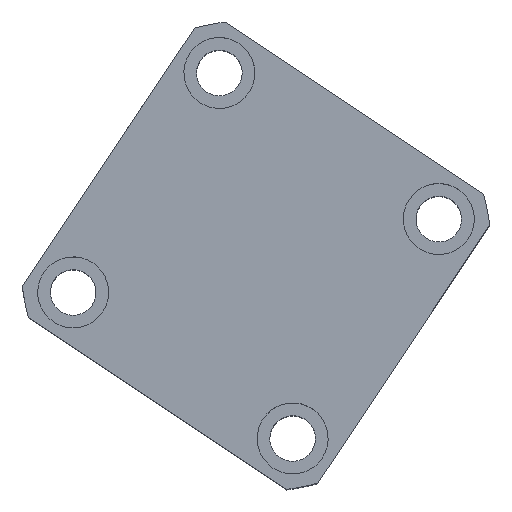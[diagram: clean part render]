
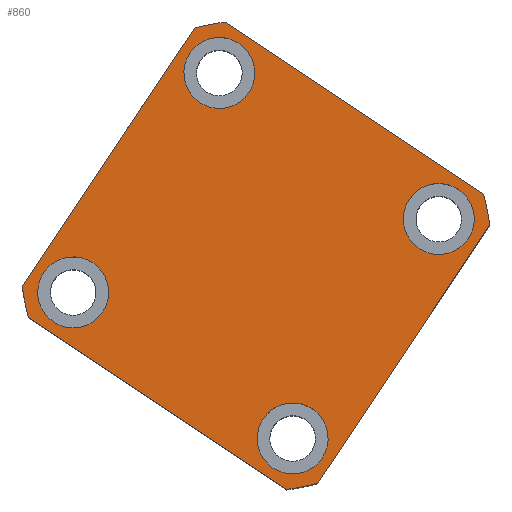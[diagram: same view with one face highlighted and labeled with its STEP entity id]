
A CAD part, top view. The second image highlights one B-rep face of the part: STEP entity #860.
In plain terms, the highlighted planar face has unit normal (0, 0, 1).
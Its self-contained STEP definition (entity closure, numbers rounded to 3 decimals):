
#104 = ORIENTED_EDGE ( 'NONE', *, *, #474, .T. ) ;
#189 = CIRCLE ( 'NONE', #4285, 7. ) ;
#366 = CARTESIAN_POINT ( 'NONE',  ( -35., 35., 65. ) ) ;
#392 = DIRECTION ( 'NONE',  ( 1., 0., 0. ) ) ;
#401 = EDGE_CURVE ( 'NONE', #8736, #599, #5447, .T. ) ;
#467 = DIRECTION ( 'NONE',  ( 1., 0., 0. ) ) ;
#474 = EDGE_CURVE ( 'NONE', #7464, #6386, #9310, .T. ) ;
#476 = DIRECTION ( 'NONE',  ( 1., 0., 0. ) ) ;
#495 = EDGE_CURVE ( 'NONE', #2965, #9809, #7234, .T. ) ;
#503 = DIRECTION ( 'NONE',  ( 0., 0., 1. ) ) ;
#570 = CARTESIAN_POINT ( 'NONE',  ( 0., 0., 65. ) ) ;
#599 = VERTEX_POINT ( 'NONE', #2149 ) ;
#791 = CIRCLE ( 'NONE', #7916, 7. ) ;
#796 = EDGE_CURVE ( 'NONE', #1993, #1742, #3973, .T. ) ;
#860 = ADVANCED_FACE ( 'NONE', ( #3713, #5793, #9901, #5562, #3451 ), #1157, .T. ) ;
#994 = EDGE_CURVE ( 'NONE', #2390, #7613, #1392, .T. ) ;
#995 = EDGE_CURVE ( 'NONE', #8487, #8311, #5061, .T. ) ;
#1053 = AXIS2_PLACEMENT_3D ( 'NONE', #9088, #3977, #5175 ) ;
#1065 = DIRECTION ( 'NONE',  ( 1., 0., 0. ) ) ;
#1119 = DIRECTION ( 'NONE',  ( 0., 0., 1. ) ) ;
#1157 = PLANE ( 'NONE',  #3457 ) ;
#1231 = EDGE_CURVE ( 'NONE', #9809, #2965, #2476, .T. ) ;
#1297 = CARTESIAN_POINT ( 'NONE',  ( -26., -26., 65. ) ) ;
#1367 = DIRECTION ( 'NONE',  ( 0., 0., 1. ) ) ;
#1392 = CIRCLE ( 'NONE', #5007, 7. ) ;
#1407 = CARTESIAN_POINT ( 'NONE',  ( -19., -26., 65. ) ) ;
#1442 = EDGE_CURVE ( 'NONE', #6386, #8487, #7101, .T. ) ;
#1634 = EDGE_CURVE ( 'NONE', #1742, #1993, #189, .T. ) ;
#1738 = DIRECTION ( 'NONE',  ( 1., 0., 0. ) ) ;
#1742 = VERTEX_POINT ( 'NONE', #3527 ) ;
#1779 = DIRECTION ( 'NONE',  ( 0., 0., 1. ) ) ;
#1903 = ORIENTED_EDGE ( 'NONE', *, *, #994, .F. ) ;
#1978 = VECTOR ( 'NONE', #4088, 1000. ) ;
#1993 = VERTEX_POINT ( 'NONE', #4639 ) ;
#2081 = AXIS2_PLACEMENT_3D ( 'NONE', #6053, #1367, #6814 ) ;
#2139 = ORIENTED_EDGE ( 'NONE', *, *, #5898, .F. ) ;
#2149 = CARTESIAN_POINT ( 'NONE',  ( -35., 30.615, 65. ) ) ;
#2352 = VECTOR ( 'NONE', #7617, 1000. ) ;
#2390 = VERTEX_POINT ( 'NONE', #8506 ) ;
#2412 = CARTESIAN_POINT ( 'NONE',  ( 19., -26., 65. ) ) ;
#2451 = EDGE_CURVE ( 'NONE', #599, #4981, #4459, .T. ) ;
#2476 = CIRCLE ( 'NONE', #8119, 7. ) ;
#2601 = AXIS2_PLACEMENT_3D ( 'NONE', #5350, #3142, #476 ) ;
#2646 = CARTESIAN_POINT ( 'NONE',  ( 30.615, -35., 65. ) ) ;
#2649 = EDGE_CURVE ( 'NONE', #4981, #9665, #9897, .T. ) ;
#2729 = CARTESIAN_POINT ( 'NONE',  ( -26., 26., 65. ) ) ;
#2766 = DIRECTION ( 'NONE',  ( 0., 0., 1. ) ) ;
#2798 = DIRECTION ( 'NONE',  ( 1., 0., 0. ) ) ;
#2965 = VERTEX_POINT ( 'NONE', #8945 ) ;
#3110 = CARTESIAN_POINT ( 'NONE',  ( 26., -26., 65. ) ) ;
#3138 = AXIS2_PLACEMENT_3D ( 'NONE', #3110, #6193, #6084 ) ;
#3142 = DIRECTION ( 'NONE',  ( 0., 0., 1. ) ) ;
#3252 = CARTESIAN_POINT ( 'NONE',  ( 26., -26., 65. ) ) ;
#3312 = DIRECTION ( 'NONE',  ( 0., 0., 1. ) ) ;
#3364 = ORIENTED_EDGE ( 'NONE', *, *, #2451, .T. ) ;
#3372 = CARTESIAN_POINT ( 'NONE',  ( 35., -30.615, 65. ) ) ;
#3378 = LINE ( 'NONE', #5027, #9338 ) ;
#3451 = FACE_OUTER_BOUND ( 'NONE', #9402, .T. ) ;
#3457 = AXIS2_PLACEMENT_3D ( 'NONE', #6481, #1119, #1065 ) ;
#3527 = CARTESIAN_POINT ( 'NONE',  ( -33., 26., 65. ) ) ;
#3636 = ORIENTED_EDGE ( 'NONE', *, *, #401, .T. ) ;
#3713 = FACE_BOUND ( 'NONE', #3756, .T. ) ;
#3756 = EDGE_LOOP ( 'NONE', ( #3966, #1903 ) ) ;
#3765 = ORIENTED_EDGE ( 'NONE', *, *, #4983, .F. ) ;
#3870 = ORIENTED_EDGE ( 'NONE', *, *, #796, .F. ) ;
#3966 = ORIENTED_EDGE ( 'NONE', *, *, #8032, .F. ) ;
#3973 = CIRCLE ( 'NONE', #9905, 7. ) ;
#3977 = DIRECTION ( 'NONE',  ( 0., 0., 1. ) ) ;
#4046 = CARTESIAN_POINT ( 'NONE',  ( 35., 35., 65. ) ) ;
#4088 = DIRECTION ( 'NONE',  ( 0., 1., 0. ) ) ;
#4120 = CARTESIAN_POINT ( 'NONE',  ( 19., 26., 65. ) ) ;
#4285 = AXIS2_PLACEMENT_3D ( 'NONE', #2729, #2766, #2798 ) ;
#4308 = CARTESIAN_POINT ( 'NONE',  ( -26., -26., 65. ) ) ;
#4459 = LINE ( 'NONE', #7580, #2352 ) ;
#4544 = CARTESIAN_POINT ( 'NONE',  ( -35., -30.615, 65. ) ) ;
#4546 = CARTESIAN_POINT ( 'NONE',  ( 33., 26., 65. ) ) ;
#4562 = EDGE_LOOP ( 'NONE', ( #3870, #7130 ) ) ;
#4574 = CARTESIAN_POINT ( 'NONE',  ( 26., 26., 65. ) ) ;
#4633 = DIRECTION ( 'NONE',  ( 1., 0., 0. ) ) ;
#4639 = CARTESIAN_POINT ( 'NONE',  ( -19., 26., 65. ) ) ;
#4759 = AXIS2_PLACEMENT_3D ( 'NONE', #6941, #5408, #4633 ) ;
#4981 = VERTEX_POINT ( 'NONE', #4544 ) ;
#4983 = EDGE_CURVE ( 'NONE', #7104, #6904, #791, .T. ) ;
#5007 = AXIS2_PLACEMENT_3D ( 'NONE', #1297, #1779, #1738 ) ;
#5027 = CARTESIAN_POINT ( 'NONE',  ( -35., -35., 65. ) ) ;
#5061 = CIRCLE ( 'NONE', #5531, 46.5 ) ;
#5082 = EDGE_LOOP ( 'NONE', ( #2139, #3765 ) ) ;
#5099 = DIRECTION ( 'NONE',  ( 1., 0., 0. ) ) ;
#5105 = ORIENTED_EDGE ( 'NONE', *, *, #1442, .T. ) ;
#5110 = LINE ( 'NONE', #366, #5360 ) ;
#5175 = DIRECTION ( 'NONE',  ( 1., 0., 0. ) ) ;
#5290 = CARTESIAN_POINT ( 'NONE',  ( -26., 26., 65. ) ) ;
#5332 = DIRECTION ( 'NONE',  ( 0., 0., 1. ) ) ;
#5350 = CARTESIAN_POINT ( 'NONE',  ( 0., 0., 65. ) ) ;
#5361 = DIRECTION ( 'NONE',  ( 1., 0., 0. ) ) ;
#5360 = VECTOR ( 'NONE', #8115, 1000. ) ;
#5408 = DIRECTION ( 'NONE',  ( 0., 0., 1. ) ) ;
#5447 = CIRCLE ( 'NONE', #1053, 46.5 ) ;
#5531 = AXIS2_PLACEMENT_3D ( 'NONE', #570, #503, #467 ) ;
#5562 = FACE_BOUND ( 'NONE', #4562, .T. ) ;
#5631 = DIRECTION ( 'NONE',  ( 1., 0., 0. ) ) ;
#5793 = FACE_BOUND ( 'NONE', #7608, .T. ) ;
#5898 = EDGE_CURVE ( 'NONE', #6904, #7104, #6726, .T. ) ;
#6053 = CARTESIAN_POINT ( 'NONE',  ( 26., 26., 65. ) ) ;
#6084 = DIRECTION ( 'NONE',  ( 1., 0., 0. ) ) ;
#6143 = ORIENTED_EDGE ( 'NONE', *, *, #995, .T. ) ;
#6175 = ORIENTED_EDGE ( 'NONE', *, *, #2649, .T. ) ;
#6193 = DIRECTION ( 'NONE',  ( 0., 0., 1. ) ) ;
#6247 = CIRCLE ( 'NONE', #9217, 7. ) ;
#6386 = VERTEX_POINT ( 'NONE', #3372 ) ;
#6481 = CARTESIAN_POINT ( 'NONE',  ( 0., 0., 65. ) ) ;
#6726 = CIRCLE ( 'NONE', #2081, 7. ) ;
#6814 = DIRECTION ( 'NONE',  ( 1., 0., 0. ) ) ;
#6904 = VERTEX_POINT ( 'NONE', #4546 ) ;
#6920 = ORIENTED_EDGE ( 'NONE', *, *, #10024, .T. ) ;
#6941 = CARTESIAN_POINT ( 'NONE',  ( 0., 0., 65. ) ) ;
#6969 = CARTESIAN_POINT ( 'NONE',  ( 35., 30.615, 65. ) ) ;
#7101 = LINE ( 'NONE', #4046, #1978 ) ;
#7104 = VERTEX_POINT ( 'NONE', #4120 ) ;
#7130 = ORIENTED_EDGE ( 'NONE', *, *, #1634, .F. ) ;
#7234 = CIRCLE ( 'NONE', #3138, 7. ) ;
#7366 = CARTESIAN_POINT ( 'NONE',  ( -30.615, 35., 65. ) ) ;
#7464 = VERTEX_POINT ( 'NONE', #2646 ) ;
#7580 = CARTESIAN_POINT ( 'NONE',  ( -35., 35., 65. ) ) ;
#7608 = EDGE_LOOP ( 'NONE', ( #8200, #9395 ) ) ;
#7613 = VERTEX_POINT ( 'NONE', #1407 ) ;
#7617 = DIRECTION ( 'NONE',  ( 0., -1., 0. ) ) ;
#7916 = AXIS2_PLACEMENT_3D ( 'NONE', #4574, #9977, #5361 ) ;
#7997 = DIRECTION ( 'NONE',  ( 1., 0., 0. ) ) ;
#8032 = EDGE_CURVE ( 'NONE', #7613, #2390, #6247, .T. ) ;
#8115 = DIRECTION ( 'NONE',  ( -1., 0., 0. ) ) ;
#8119 = AXIS2_PLACEMENT_3D ( 'NONE', #3252, #3312, #7997 ) ;
#8200 = ORIENTED_EDGE ( 'NONE', *, *, #495, .F. ) ;
#8311 = VERTEX_POINT ( 'NONE', #9889 ) ;
#8365 = ORIENTED_EDGE ( 'NONE', *, *, #9435, .T. ) ;
#8487 = VERTEX_POINT ( 'NONE', #6969 ) ;
#8506 = CARTESIAN_POINT ( 'NONE',  ( -33., -26., 65. ) ) ;
#8596 = CARTESIAN_POINT ( 'NONE',  ( -30.615, -35., 65. ) ) ;
#8736 = VERTEX_POINT ( 'NONE', #7366 ) ;
#8945 = CARTESIAN_POINT ( 'NONE',  ( 33., -26., 65. ) ) ;
#9088 = CARTESIAN_POINT ( 'NONE',  ( 0., 0., 65. ) ) ;
#9217 = AXIS2_PLACEMENT_3D ( 'NONE', #4308, #9723, #5099 ) ;
#9310 = CIRCLE ( 'NONE', #2601, 46.5 ) ;
#9338 = VECTOR ( 'NONE', #392, 1000. ) ;
#9395 = ORIENTED_EDGE ( 'NONE', *, *, #1231, .F. ) ;
#9402 = EDGE_LOOP ( 'NONE', ( #5105, #6143, #8365, #3636, #3364, #6175, #6920, #104 ) ) ;
#9435 = EDGE_CURVE ( 'NONE', #8311, #8736, #5110, .T. ) ;
#9665 = VERTEX_POINT ( 'NONE', #8596 ) ;
#9723 = DIRECTION ( 'NONE',  ( 0., 0., 1. ) ) ;
#9809 = VERTEX_POINT ( 'NONE', #2412 ) ;
#9889 = CARTESIAN_POINT ( 'NONE',  ( 30.615, 35., 65. ) ) ;
#9897 = CIRCLE ( 'NONE', #4759, 46.5 ) ;
#9901 = FACE_BOUND ( 'NONE', #5082, .T. ) ;
#9905 = AXIS2_PLACEMENT_3D ( 'NONE', #5290, #5332, #5631 ) ;
#9977 = DIRECTION ( 'NONE',  ( 0., 0., 1. ) ) ;
#10024 = EDGE_CURVE ( 'NONE', #9665, #7464, #3378, .T. ) ;
